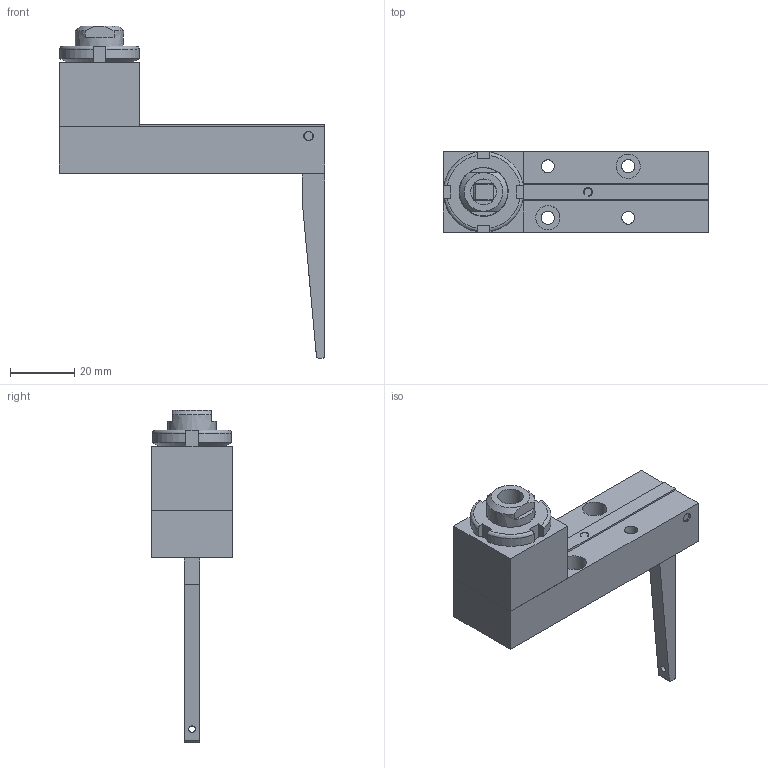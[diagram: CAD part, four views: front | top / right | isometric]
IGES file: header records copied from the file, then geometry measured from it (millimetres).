
Global section: file name: 187.00; native system: Autodesk Inventor 2014; preprocessor: unknown; author: AP; date: 20150507.161554; units: millimetre
Bounding box: 82.5 x 25 x 103.25 mm (x, y, z)
Volume: 41829.1 mm3; surface area: 22740.6 mm2
Topology: 11 solids, 11 shells, 193 faces, 534 edges, 372 vertices
Faces by surface type: bspline 193
